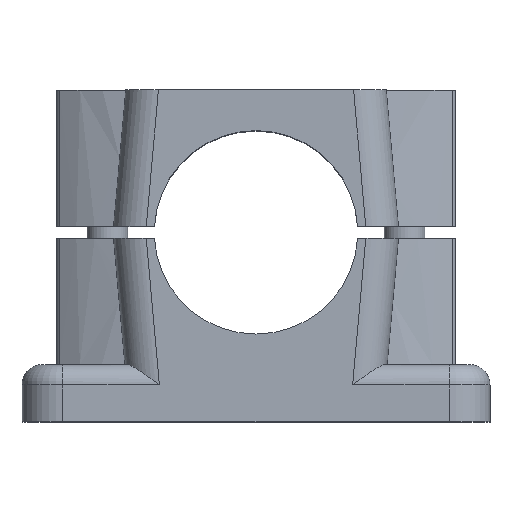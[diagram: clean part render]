
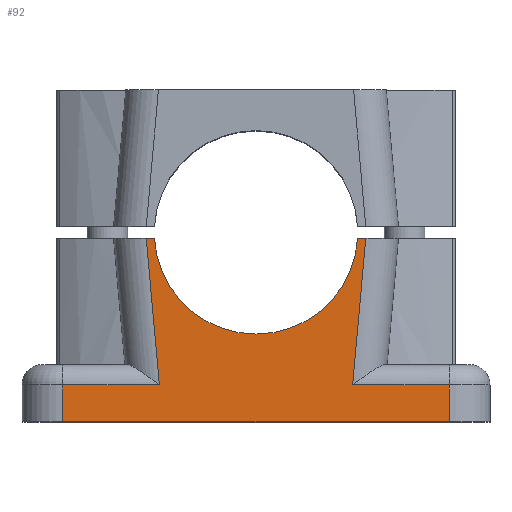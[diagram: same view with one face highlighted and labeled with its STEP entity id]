
A CAD part, top view. The second image highlights one B-rep face of the part: STEP entity #92.
In plain terms, the highlighted planar face has unit normal (0, 0, 1).
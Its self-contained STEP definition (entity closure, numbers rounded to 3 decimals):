
#92 = ADVANCED_FACE( '', ( #339 ), #340, .T. );
#339 = FACE_OUTER_BOUND( '', #839, .T. );
#340 = PLANE( '', #840 );
#839 = EDGE_LOOP( '', ( #1453, #1454, #1455, #1456, #1457, #1458, #1459, #1460, #1461, #1462 ) );
#840 = AXIS2_PLACEMENT_3D( '', #1463, #1464, #1465 );
#1453 = ORIENTED_EDGE( '', *, *, #3200, .T. );
#1454 = ORIENTED_EDGE( '', *, *, #3201, .T. );
#1455 = ORIENTED_EDGE( '', *, *, #3202, .T. );
#1456 = ORIENTED_EDGE( '', *, *, #3203, .F. );
#1457 = ORIENTED_EDGE( '', *, *, #3204, .T. );
#1458 = ORIENTED_EDGE( '', *, *, #3205, .T. );
#1459 = ORIENTED_EDGE( '', *, *, #3171, .F. );
#1460 = ORIENTED_EDGE( '', *, *, #3206, .F. );
#1461 = ORIENTED_EDGE( '', *, *, #3120, .T. );
#1462 = ORIENTED_EDGE( '', *, *, #3207, .T. );
#1463 = CARTESIAN_POINT( '', ( 0., 0., 38. ) );
#1464 = DIRECTION( '', ( 0., 0., 1. ) );
#1465 = DIRECTION( '', ( 1., 0., 0. ) );
#3120 = EDGE_CURVE( '', #3701, #3699, #3702, .T. );
#3171 = EDGE_CURVE( '', #3791, #3779, #3793, .T. );
#3200 = EDGE_CURVE( '', #3850, #3851, #3852, .T. );
#3201 = EDGE_CURVE( '', #3851, #3853, #3854, .F. );
#3202 = EDGE_CURVE( '', #3853, #3855, #3856, .T. );
#3203 = EDGE_CURVE( '', #3857, #3855, #3858, .T. );
#3204 = EDGE_CURVE( '', #3857, #3859, #3860, .T. );
#3205 = EDGE_CURVE( '', #3859, #3779, #3861, .T. );
#3206 = EDGE_CURVE( '', #3701, #3791, #3862, .T. );
#3207 = EDGE_CURVE( '', #3699, #3850, #3863, .T. );
#3699 = VERTEX_POINT( '', #4702 );
#3701 = VERTEX_POINT( '', #4725 );
#3702 = LINE( '', #4726, #4727 );
#3779 = VERTEX_POINT( '', #4822 );
#3791 = VERTEX_POINT( '', #4837 );
#3793 = LINE( '', #4839, #4840 );
#3850 = VERTEX_POINT( '', #4909 );
#3851 = VERTEX_POINT( '', #4910 );
#3852 = LINE( '', #4911, #4912 );
#3853 = VERTEX_POINT( '', #4913 );
#3854 = CIRCLE( '', #4914, 25. );
#3855 = VERTEX_POINT( '', #4915 );
#3856 = LINE( '', #4916, #4917 );
#3857 = VERTEX_POINT( '', #4918 );
#3858 = LINE( '', #4919, #4920 );
#3859 = VERTEX_POINT( '', #4921 );
#3860 = LINE( '', #4922, #4923 );
#3861 = LINE( '', #4924, #4925 );
#3862 = LINE( '', #4926, #4927 );
#3863 = LINE( '', #4928, #4929 );
#4702 = CARTESIAN_POINT( '', ( 23.749, -37.5, 38. ) );
#4725 = CARTESIAN_POINT( '', ( 47.5, -37.5, 38. ) );
#4726 = CARTESIAN_POINT( '', ( 47.5, -37.5, 38. ) );
#4727 = VECTOR( '', #6059, 1000. );
#4822 = CARTESIAN_POINT( '', ( -47.5, -46.5, 38. ) );
#4837 = CARTESIAN_POINT( '', ( 47.5, -46.5, 38. ) );
#4839 = CARTESIAN_POINT( '', ( 47.5, -46.5, 38. ) );
#4840 = VECTOR( '', #6168, 1000. );
#4909 = CARTESIAN_POINT( '', ( 26.973, -1.5, 38. ) );
#4910 = CARTESIAN_POINT( '', ( 24.955, -1.5, 38. ) );
#4911 = CARTESIAN_POINT( '', ( 0., -1.5, 38. ) );
#4912 = VECTOR( '', #6229, 1000. );
#4913 = CARTESIAN_POINT( '', ( -24.955, -1.5, 38. ) );
#4914 = AXIS2_PLACEMENT_3D( '', #6230, #6231, #6232 );
#4915 = CARTESIAN_POINT( '', ( -26.973, -1.5, 38. ) );
#4916 = CARTESIAN_POINT( '', ( 0., -1.5, 38. ) );
#4917 = VECTOR( '', #6233, 1000. );
#4918 = CARTESIAN_POINT( '', ( -23.749, -37.5, 38. ) );
#4919 = CARTESIAN_POINT( '', ( -23.693, -38.131, 38. ) );
#4920 = VECTOR( '', #6234, 1000. );
#4921 = CARTESIAN_POINT( '', ( -47.5, -37.5, 38. ) );
#4922 = CARTESIAN_POINT( '', ( 47.5, -37.5, 38. ) );
#4923 = VECTOR( '', #6235, 1000. );
#4924 = CARTESIAN_POINT( '', ( -47.5, -37.5, 38. ) );
#4925 = VECTOR( '', #6236, 1000. );
#4926 = CARTESIAN_POINT( '', ( 47.5, -37.5, 38. ) );
#4927 = VECTOR( '', #6237, 1000. );
#4928 = CARTESIAN_POINT( '', ( 23.693, -38.131, 38. ) );
#4929 = VECTOR( '', #6238, 1000. );
#6059 = DIRECTION( '', ( -1., 0., 0. ) );
#6168 = DIRECTION( '', ( -1., 0., 0. ) );
#6229 = DIRECTION( '', ( -1., 0., 0. ) );
#6230 = CARTESIAN_POINT( '', ( 0., 0., 38. ) );
#6231 = DIRECTION( '', ( 0., 0., 1. ) );
#6232 = DIRECTION( '', ( 1., 0., 0. ) );
#6233 = DIRECTION( '', ( -1., 0., 0. ) );
#6234 = DIRECTION( '', ( -0.089, 0.996, 0. ) );
#6235 = DIRECTION( '', ( -1., 0., 0. ) );
#6236 = DIRECTION( '', ( 0., -1., 0. ) );
#6237 = DIRECTION( '', ( 0., -1., 0. ) );
#6238 = DIRECTION( '', ( 0.089, 0.996, 0. ) );
